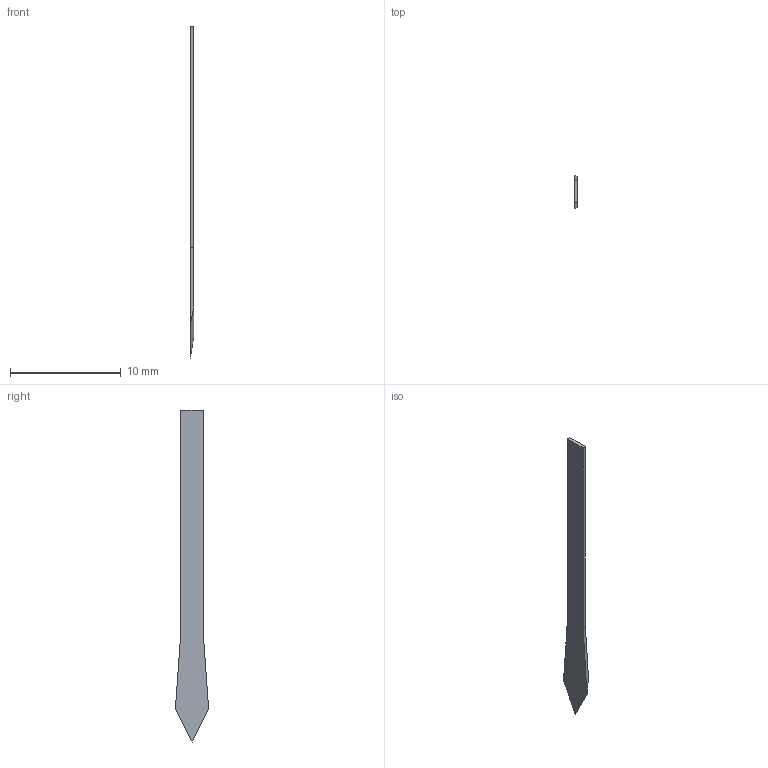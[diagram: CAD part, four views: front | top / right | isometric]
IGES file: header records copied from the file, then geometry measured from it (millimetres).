
Start section: START RECORD GO HERE.
Global section: file name: Part1.igs; native system: IBM CATIA IGES - CATIA Version 5 Release 16 ; preprocessor: CATIA Version 5 Release 16 ; author: Kata       peng; organization: P4; date: 20090320.140114; units: millimetre
Bounding box: 0.3 x 3 x 30 mm (x, y, z)
Surface area: 140.7 mm2 (no closed solid volume)
Topology: 0 solids, 0 shells, 9 faces, 42 edges, 42 vertices
Faces by surface type: plane 9
